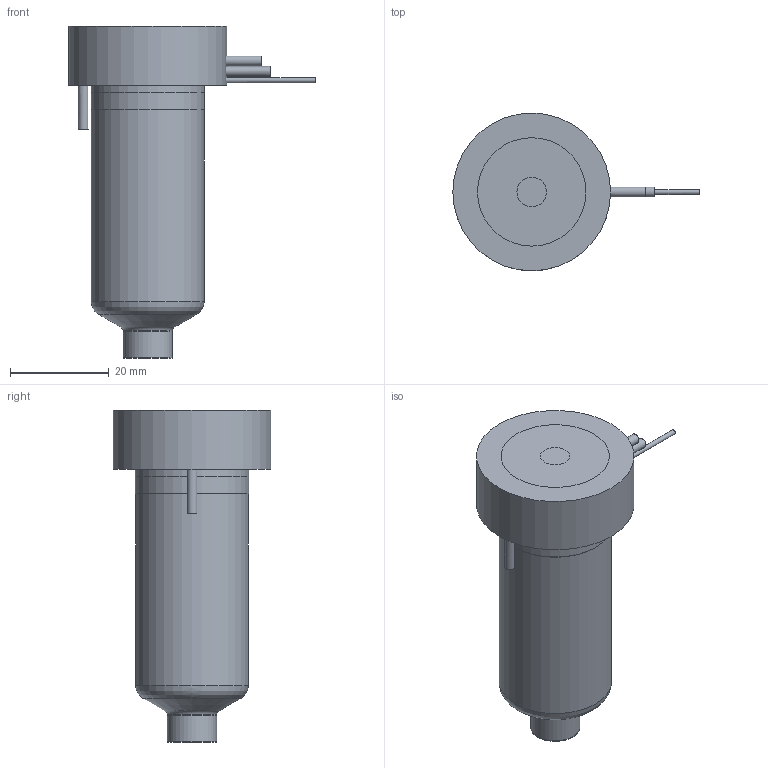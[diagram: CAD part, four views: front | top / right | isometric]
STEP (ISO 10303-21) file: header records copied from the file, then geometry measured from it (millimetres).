
FILE_DESCRIPTION(/* description */ (''),/* implementation_level */ '2;1');
FILE_NAME(/* name */ 'MXTBE13055_200C_a',/* time_stamp */ '2016-03-02T15:55:13+13:00',/* author */ (''),/* organization */ (''),/* preprocessor_version */ 'ST-DEVELOPER v9',/* originating_system */ 'UGS - NX 4.0',/* authorisation */ '');
FILE_SCHEMA (('CONFIG_CONTROL_DESIGN'));
Length unit declared in the file: millimetre
Products named in the file (1): matt3462e0nz
Bounding box: 49.95 x 32 x 67.35 mm (x, y, z)
Volume: 49701.5 mm3; surface area: 12070.7 mm2
Topology: 2 solids, 2 shells, 69 faces, 153 edges, 100 vertices
Faces by surface type: plane 30, cylinder 25, torus 7, cone 6, bspline 1
Full cylindrical faces by diameter (mm): 0.9 x1, 1 x2, 2 x3, 6 x1, 9.61 x1, 10.01 x2, 12.6 x1, 18.8 x1, 22.9 x1, 23 x2, 32 x1
Entity records: 2081 total; most frequent: CARTESIAN_POINT 608, DIRECTION 306, ORIENTED_EDGE 230, AXIS2_PLACEMENT_3D 137, EDGE_CURVE 115, EDGE_LOOP 110, VERTEX_POINT 89, ADVANCED_FACE 69
